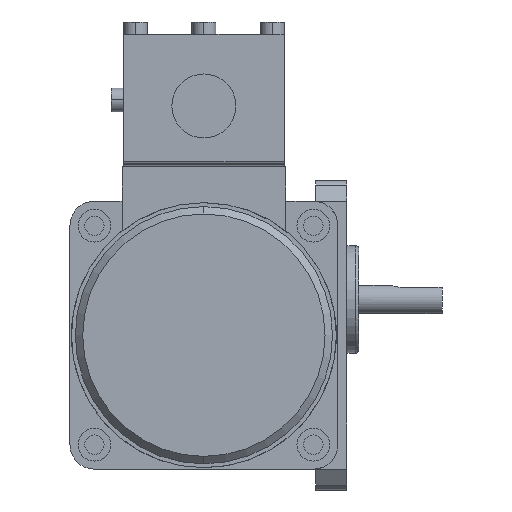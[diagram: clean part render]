
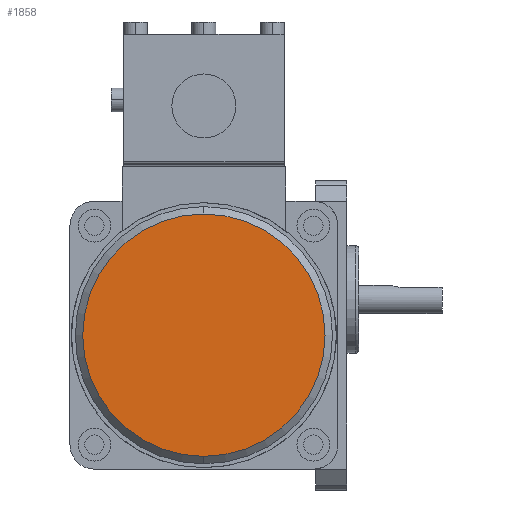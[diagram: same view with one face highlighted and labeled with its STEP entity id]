
A CAD part, left-side view. The second image highlights one B-rep face of the part: STEP entity #1858.
In plain terms, the highlighted planar face has unit normal (-1, 0, 0).
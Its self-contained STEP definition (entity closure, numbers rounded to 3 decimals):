
#1838=CARTESIAN_POINT('POINT60131',(-173.,48.,28.7));
#1839=VERTEX_POINT('VERTEX60131',#1838);
#1840=CARTESIAN_POINT('POINT60132',(-173.,48.,-52.7));
#1841=VERTEX_POINT('VERTEX60132',#1840);
#1842=CARTESIAN_POINT('POS101578',(-173.,48.,-12.));
#1843=DIRECTION('DIR153212',(1.,0.,0.));
#1844=DIRECTION('DIR153213',(0.,0.,1.));
#1845=AXIS2_PLACEMENT_3D('AXIS51635',#1842,#1843,#1844);
#1846=CIRCLE('ELLIPSE24156',#1845,40.7);
#1847=EDGE_CURVE('EDGE91713',#1839,#1841,#1846,.T.);
#1848=ORIENTED_EDGE('COEDGE183405',*,*,#1847,.F.);
#1849=EDGE_CURVE('EDGE91714',#1841,#1839,#1846,.T.);
#1850=ORIENTED_EDGE('COEDGE183406',*,*,#1849,.F.);
#1851=EDGE_LOOP('NONE',(#1848,#1850));
#1852=FACE_BOUND('LOOP1',#1851,.T.);
#1853=CARTESIAN_POINT('POS101579',(-173.,48.,
   8.35));
#1854=DIRECTION('DIR153214',(-1.,0.,0.));
#1855=DIRECTION('DIR153215',(0.,1.,0.));
#1856=AXIS2_PLACEMENT_3D('AXIS51636',#1853,#1854,#1855);
#1857=PLANE('PLANE16473',#1856);
#1858=ADVANCED_FACE('FACE37716',(#1852),#1857,.T.);
